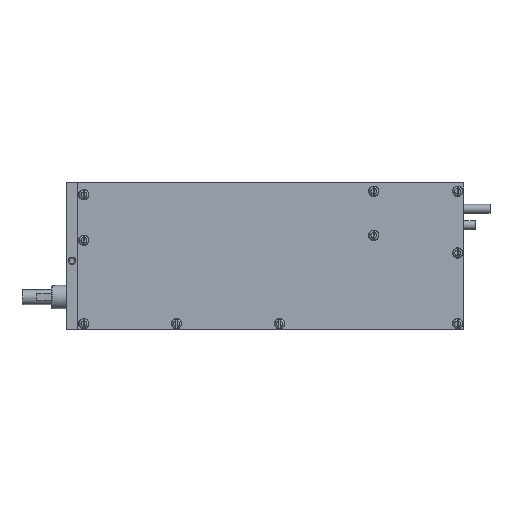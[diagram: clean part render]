
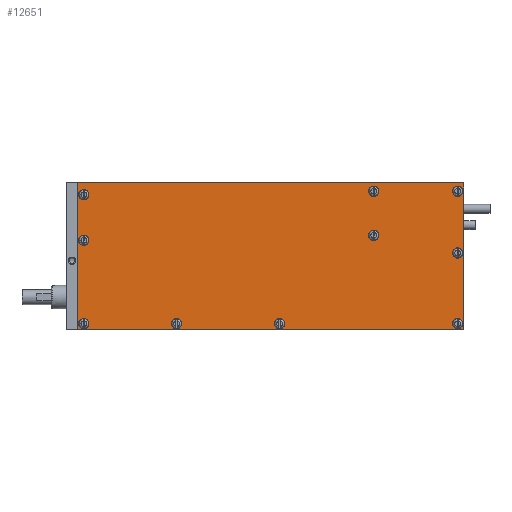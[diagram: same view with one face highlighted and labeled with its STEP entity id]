
A CAD part, top view. The second image highlights one B-rep face of the part: STEP entity #12651.
In plain terms, the highlighted planar face has unit normal (0, 0, 1).
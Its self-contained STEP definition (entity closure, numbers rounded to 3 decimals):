
#9633=CARTESIAN_POINT('',(3.95,-35.22,1.598));
#9634=VERTEX_POINT('',#9633);
#9635=CARTESIAN_POINT('',(2.2,-35.22,1.598));
#9636=DIRECTION('',(0.0,0.0,-1.0));
#9637=DIRECTION('',(1.0,0.0,0.0));
#9638=AXIS2_PLACEMENT_3D('',#9635,#9636,#9637);
#9639=CIRCLE('',#9638,1.75);
#9640=EDGE_CURVE('',#9634,#9634,#9639,.T.);
#10228=CARTESIAN_POINT('',(0.0,-37.22,1.598));
#10229=VERTEX_POINT('',#10228);
#10236=CARTESIAN_POINT('',(0.,12.58,1.598));
#10237=VERTEX_POINT('',#10236);
#10238=CARTESIAN_POINT('',(0.0,-37.22,1.598));
#10239=DIRECTION('',(0.0,1.0,0.0));
#10240=VECTOR('',#10239,49.8);
#10241=LINE('',#10238,#10240);
#10242=EDGE_CURVE('',#10229,#10237,#10241,.T.);
#11461=CARTESIAN_POINT('',(102.45,-5.22,1.598));
#11462=VERTEX_POINT('',#11461);
#11463=CARTESIAN_POINT('',(100.7,-5.22,1.598));
#11464=DIRECTION('',(0.0,0.0,-1.0));
#11465=DIRECTION('',(1.0,0.0,0.0));
#11466=AXIS2_PLACEMENT_3D('',#11463,#11464,#11465);
#11467=CIRCLE('',#11466,1.75);
#11468=EDGE_CURVE('',#11462,#11462,#11467,.T.);
#11563=CARTESIAN_POINT('',(130.95,-35.22,1.598));
#11564=VERTEX_POINT('',#11563);
#11565=CARTESIAN_POINT('',(129.2,-35.22,1.598));
#11566=DIRECTION('',(0.0,0.0,-1.0));
#11567=DIRECTION('',(1.0,0.0,0.0));
#11568=AXIS2_PLACEMENT_3D('',#11565,#11566,#11567);
#11569=CIRCLE('',#11568,1.75);
#11570=EDGE_CURVE('',#11564,#11564,#11569,.T.);
#11665=CARTESIAN_POINT('',(130.95,-11.22,1.598));
#11666=VERTEX_POINT('',#11665);
#11667=CARTESIAN_POINT('',(129.2,-11.22,1.598));
#11668=DIRECTION('',(0.0,0.0,-1.0));
#11669=DIRECTION('',(1.0,0.0,0.0));
#11670=AXIS2_PLACEMENT_3D('',#11667,#11668,#11669);
#11671=CIRCLE('',#11670,1.75);
#11672=EDGE_CURVE('',#11666,#11666,#11671,.T.);
#11767=CARTESIAN_POINT('',(70.45,-35.22,1.598));
#11768=VERTEX_POINT('',#11767);
#11769=CARTESIAN_POINT('',(68.7,-35.22,1.598));
#11770=DIRECTION('',(0.0,0.0,-1.0));
#11771=DIRECTION('',(1.0,0.0,0.0));
#11772=AXIS2_PLACEMENT_3D('',#11769,#11770,#11771);
#11773=CIRCLE('',#11772,1.75);
#11774=EDGE_CURVE('',#11768,#11768,#11773,.T.);
#11869=CARTESIAN_POINT('',(102.45,9.78,1.598));
#11870=VERTEX_POINT('',#11869);
#11871=CARTESIAN_POINT('',(100.7,9.78,1.598));
#11872=DIRECTION('',(0.0,0.0,-1.0));
#11873=DIRECTION('',(1.0,0.0,0.0));
#11874=AXIS2_PLACEMENT_3D('',#11871,#11872,#11873);
#11875=CIRCLE('',#11874,1.75);
#11876=EDGE_CURVE('',#11870,#11870,#11875,.T.);
#12000=CARTESIAN_POINT('',(130.95,9.78,1.598));
#12001=VERTEX_POINT('',#12000);
#12002=CARTESIAN_POINT('',(129.2,9.78,1.598));
#12003=DIRECTION('',(0.0,0.0,-1.0));
#12004=DIRECTION('',(1.0,0.0,0.0));
#12005=AXIS2_PLACEMENT_3D('',#12002,#12003,#12004);
#12006=CIRCLE('',#12005,1.75);
#12007=EDGE_CURVE('',#12001,#12001,#12006,.T.);
#12293=CARTESIAN_POINT('',(35.45,-35.22,1.598));
#12294=VERTEX_POINT('',#12293);
#12295=CARTESIAN_POINT('',(33.7,-35.22,1.598));
#12296=DIRECTION('',(0.0,0.0,-1.0));
#12297=DIRECTION('',(1.0,0.0,0.0));
#12298=AXIS2_PLACEMENT_3D('',#12295,#12296,#12297);
#12299=CIRCLE('',#12298,1.75);
#12300=EDGE_CURVE('',#12294,#12294,#12299,.T.);
#12395=CARTESIAN_POINT('',(3.95,-6.92,1.598));
#12396=VERTEX_POINT('',#12395);
#12397=CARTESIAN_POINT('',(2.2,-6.92,1.598));
#12398=DIRECTION('',(0.0,0.0,-1.0));
#12399=DIRECTION('',(1.0,0.0,0.0));
#12400=AXIS2_PLACEMENT_3D('',#12397,#12398,#12399);
#12401=CIRCLE('',#12400,1.75);
#12402=EDGE_CURVE('',#12396,#12396,#12401,.T.);
#12497=CARTESIAN_POINT('',(3.95,8.58,1.598));
#12498=VERTEX_POINT('',#12497);
#12499=CARTESIAN_POINT('',(2.2,8.58,1.598));
#12500=DIRECTION('',(0.0,0.0,-1.0));
#12501=DIRECTION('',(1.0,0.0,0.0));
#12502=AXIS2_PLACEMENT_3D('',#12499,#12500,#12501);
#12503=CIRCLE('',#12502,1.75);
#12504=EDGE_CURVE('',#12498,#12498,#12503,.T.);
#12550=CARTESIAN_POINT('',(131.2,12.58,1.598));
#12551=VERTEX_POINT('',#12550);
#12552=CARTESIAN_POINT('',(131.2,-37.22,1.598));
#12553=VERTEX_POINT('',#12552);
#12554=CARTESIAN_POINT('',(131.2,12.58,1.598));
#12555=DIRECTION('',(0.0,-1.0,0.0));
#12556=VECTOR('',#12555,49.8);
#12557=LINE('',#12554,#12556);
#12558=EDGE_CURVE('',#12551,#12553,#12557,.T.);
#12581=CARTESIAN_POINT('',(131.2,-37.22,1.598));
#12582=DIRECTION('',(-1.0,0.0,0.0));
#12583=VECTOR('',#12582,131.2);
#12584=LINE('',#12581,#12583);
#12585=EDGE_CURVE('',#12553,#10229,#12584,.T.);
#12598=CARTESIAN_POINT('',(0.,12.58,1.598));
#12599=DIRECTION('',(1.0,0.0,0.0));
#12600=VECTOR('',#12599,131.2);
#12601=LINE('',#12598,#12600);
#12602=EDGE_CURVE('',#10237,#12551,#12601,.T.);
#12610=CARTESIAN_POINT('',(65.6,-12.32,1.598));
#12611=DIRECTION('',(0.0,0.0,1.0));
#12612=DIRECTION('',(1.0,0.0,0.0));
#12613=AXIS2_PLACEMENT_3D('',#12610,#12611,#12612);
#12614=PLANE('',#12613);
#12615=ORIENTED_EDGE('',*,*,#12558,.F.);
#12616=ORIENTED_EDGE('',*,*,#12602,.F.);
#12617=ORIENTED_EDGE('',*,*,#10242,.F.);
#12618=ORIENTED_EDGE('',*,*,#12585,.F.);
#12619=EDGE_LOOP('',(#12615,#12616,#12617,#12618));
#12620=FACE_OUTER_BOUND('',#12619,.T.);
#12621=ORIENTED_EDGE('',*,*,#9640,.T.);
#12622=EDGE_LOOP('',(#12621));
#12623=FACE_BOUND('',#12622,.T.);
#12624=ORIENTED_EDGE('',*,*,#11468,.T.);
#12625=EDGE_LOOP('',(#12624));
#12626=FACE_BOUND('',#12625,.T.);
#12627=ORIENTED_EDGE('',*,*,#11570,.T.);
#12628=EDGE_LOOP('',(#12627));
#12629=FACE_BOUND('',#12628,.T.);
#12630=ORIENTED_EDGE('',*,*,#11672,.T.);
#12631=EDGE_LOOP('',(#12630));
#12632=FACE_BOUND('',#12631,.T.);
#12633=ORIENTED_EDGE('',*,*,#11774,.T.);
#12634=EDGE_LOOP('',(#12633));
#12635=FACE_BOUND('',#12634,.T.);
#12636=ORIENTED_EDGE('',*,*,#11876,.T.);
#12637=EDGE_LOOP('',(#12636));
#12638=FACE_BOUND('',#12637,.T.);
#12639=ORIENTED_EDGE('',*,*,#12007,.T.);
#12640=EDGE_LOOP('',(#12639));
#12641=FACE_BOUND('',#12640,.T.);
#12642=ORIENTED_EDGE('',*,*,#12300,.T.);
#12643=EDGE_LOOP('',(#12642));
#12644=FACE_BOUND('',#12643,.T.);
#12645=ORIENTED_EDGE('',*,*,#12402,.T.);
#12646=EDGE_LOOP('',(#12645));
#12647=FACE_BOUND('',#12646,.T.);
#12648=ORIENTED_EDGE('',*,*,#12504,.T.);
#12649=EDGE_LOOP('',(#12648));
#12650=FACE_BOUND('',#12649,.T.);
#12651=ADVANCED_FACE('',(#12620,#12623,#12626,#12629,#12632,#12635,#12638,#12641,#12644,#12647,#12650),#12614,.T.);
